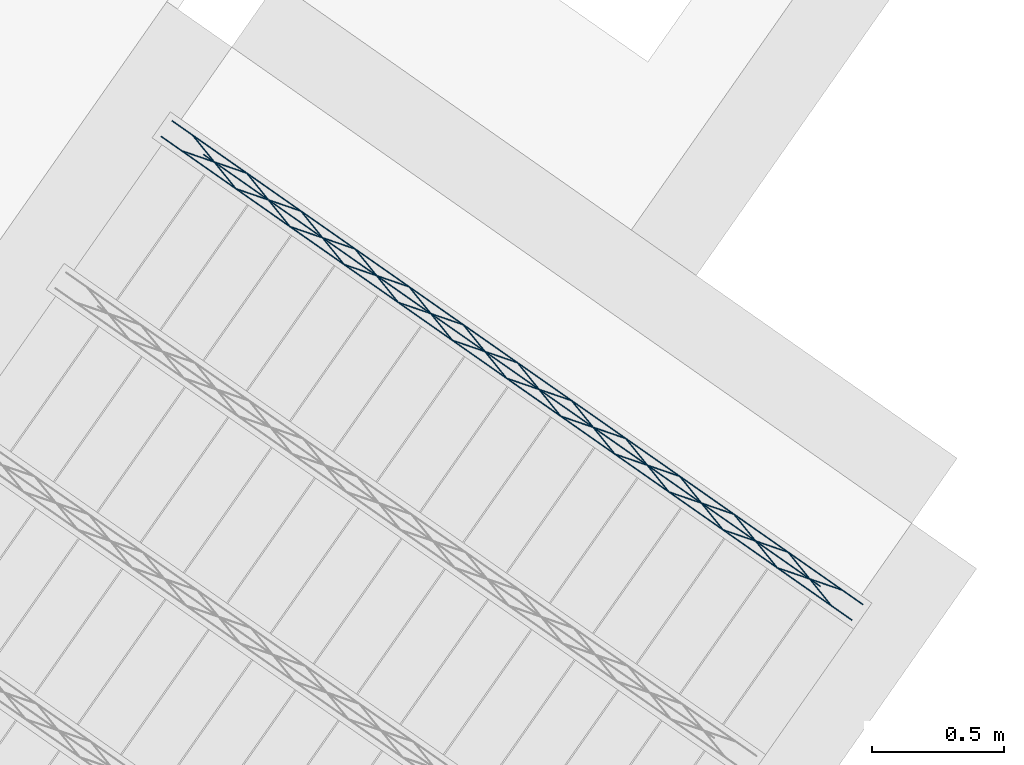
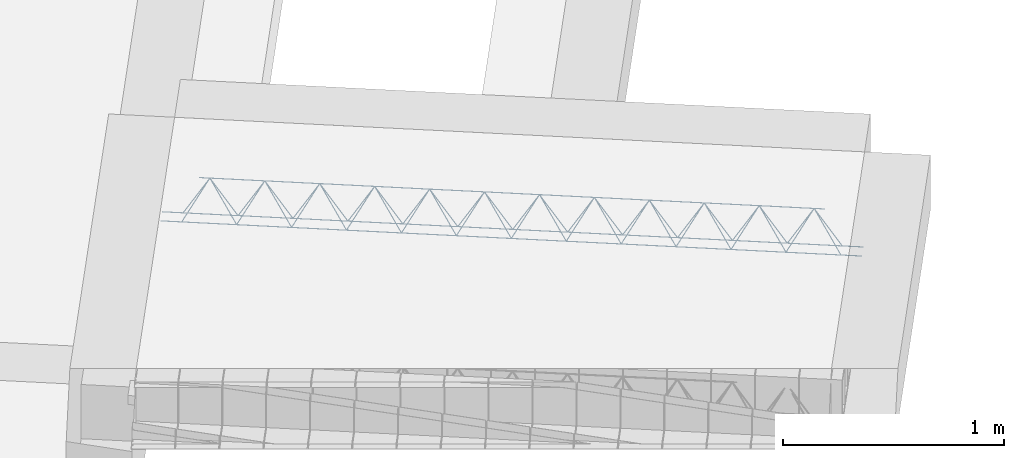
# One storey, part 17 of 46: 1 member.
"""IFC2X3 building model written with IfcOpenShell, lengths in metres."""

from ifc_helpers import new_model, entity, si_unit, converted_unit, derived_unit, direction, frame, origin, origin_2d_with_axis, place, context, subcontext, project, spatial, circle, extrude, type_object, element, save


model = new_model("IFC2X3")

# Units and contexts
model_context = context("Model", 3, precision=1e-05, world=origin(), true_north=direction((6.123031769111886e-17, 1.0)))
body_context = subcontext(model_context, "Body", "Model", "MODEL_VIEW")
ifc_project = project(units=[si_unit("LENGTHUNIT", "METRE"), si_unit("AREAUNIT", "SQUARE_METRE"), si_unit("VOLUMEUNIT", "CUBIC_METRE"), converted_unit("PLANEANGLEUNIT", "DEGREE", entity("IfcPlaneAngleMeasure", 0.017453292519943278), si_unit("PLANEANGLEUNIT", "RADIAN"), dimensions=[0, 0, 0, 0, 0, 0, 0]), si_unit("MASSUNIT", "GRAM", prefix="KILO"), derived_unit("MASSDENSITYUNIT", [(si_unit("MASSUNIT", "GRAM", prefix="KILO"), 1), (si_unit("LENGTHUNIT", "METRE"), -3)]), derived_unit("IONCONCENTRATIONUNIT", [(si_unit("MASSUNIT", "GRAM", prefix="KILO"), 1), (si_unit("LENGTHUNIT", "METRE"), -3)]), derived_unit("MOMENTOFINERTIAUNIT", [(si_unit("LENGTHUNIT", "METRE"), 4)]), si_unit("TIMEUNIT", "SECOND"), si_unit("FREQUENCYUNIT", "HERTZ"), si_unit("THERMODYNAMICTEMPERATUREUNIT", "DEGREE_CELSIUS"), derived_unit("THERMALTRANSMITTANCEUNIT", [(si_unit("MASSUNIT", "GRAM", prefix="KILO"), 1), (si_unit("THERMODYNAMICTEMPERATUREUNIT", "KELVIN"), -1), (si_unit("TIMEUNIT", "SECOND"), -3)]), derived_unit("THERMALCONDUCTANCEUNIT", [(si_unit("MASSUNIT", "GRAM", prefix="KILO"), 1), (si_unit("THERMODYNAMICTEMPERATUREUNIT", "KELVIN"), -1), (si_unit("TIMEUNIT", "SECOND"), -3), (si_unit("LENGTHUNIT", "METRE"), 1)]), derived_unit("VOLUMETRICFLOWRATEUNIT", [(si_unit("LENGTHUNIT", "METRE", prefix="DECI"), 3), (si_unit("TIMEUNIT", "SECOND"), -1)]), derived_unit("MASSFLOWRATEUNIT", [(si_unit("MASSUNIT", "GRAM", prefix="KILO"), 1), (si_unit("TIMEUNIT", "SECOND"), -1)]), derived_unit("ROTATIONALFREQUENCYUNIT", [(si_unit("TIMEUNIT", "SECOND"), -1)]), si_unit("ELECTRICCURRENTUNIT", "AMPERE"), si_unit("ELECTRICVOLTAGEUNIT", "VOLT"), si_unit("POWERUNIT", "WATT"), si_unit("FORCEUNIT", "NEWTON", prefix="KILO"), si_unit("ILLUMINANCEUNIT", "LUX"), si_unit("LUMINOUSFLUXUNIT", "LUMEN"), si_unit("LUMINOUSINTENSITYUNIT", "CANDELA"), si_unit("ENERGYUNIT", "JOULE"), derived_unit("USERDEFINED", [(si_unit("MASSUNIT", "GRAM", prefix="KILO"), -1), (si_unit("LENGTHUNIT", "METRE"), -2), (si_unit("TIMEUNIT", "SECOND"), 3), (si_unit("LUMINOUSFLUXUNIT", "LUMEN"), 1)]), derived_unit("USERDEFINED", [(si_unit("MASSUNIT", "GRAM", prefix="KILO"), 1), (si_unit("TIMEUNIT", "SECOND"), -3), (si_unit("LENGTHUNIT", "METRE"), 3), (si_unit("ELECTRICCURRENTUNIT", "AMPERE"), -2)]), derived_unit("SOUNDPOWERUNIT", [(si_unit("MASSUNIT", "GRAM", prefix="KILO"), 1), (si_unit("TIMEUNIT", "SECOND"), -3), (si_unit("LENGTHUNIT", "METRE"), 2)]), derived_unit("SOUNDPRESSUREUNIT", [(si_unit("MASSUNIT", "GRAM", prefix="KILO"), 1), (si_unit("LENGTHUNIT", "METRE"), -1), (si_unit("TIMEUNIT", "SECOND"), -2)]), derived_unit("LINEARVELOCITYUNIT", [(si_unit("LENGTHUNIT", "METRE"), 1), (si_unit("TIMEUNIT", "SECOND"), -1)]), si_unit("PRESSUREUNIT", "PASCAL"), derived_unit("USERDEFINED", [(si_unit("MASSUNIT", "GRAM", prefix="KILO"), 1), (si_unit("LENGTHUNIT", "METRE"), -2), (si_unit("TIMEUNIT", "SECOND"), -2)]), derived_unit("LINEARFORCEUNIT", [(si_unit("MASSUNIT", "GRAM", prefix="KILO"), 1), (si_unit("TIMEUNIT", "SECOND"), -2)]), derived_unit("PLANARFORCEUNIT", [(si_unit("MASSUNIT", "GRAM", prefix="KILO"), 1), (si_unit("LENGTHUNIT", "METRE"), -1), (si_unit("TIMEUNIT", "SECOND"), -2)]), derived_unit("SPECIFICHEATCAPACITYUNIT", [(si_unit("THERMODYNAMICTEMPERATUREUNIT", "KELVIN"), -1), (si_unit("LENGTHUNIT", "METRE"), 2), (si_unit("TIMEUNIT", "SECOND"), -2)]), derived_unit("HEATFLUXDENSITYUNIT", [(si_unit("MASSUNIT", "GRAM", prefix="KILO"), 1), (si_unit("TIMEUNIT", "SECOND"), -3)]), derived_unit("HEATINGVALUEUNIT", [(si_unit("LENGTHUNIT", "METRE"), 2), (si_unit("TIMEUNIT", "SECOND"), -2)]), derived_unit("VAPORPERMEABILITYUNIT", [(si_unit("LENGTHUNIT", "METRE"), -1), (si_unit("TIMEUNIT", "SECOND"), 1)]), derived_unit("DYNAMICVISCOSITYUNIT", [(si_unit("MASSUNIT", "GRAM", prefix="KILO"), 1), (si_unit("TIMEUNIT", "SECOND"), -1), (si_unit("LENGTHUNIT", "METRE"), -1)]), derived_unit("THERMALEXPANSIONCOEFFICIENTUNIT", [(si_unit("THERMODYNAMICTEMPERATUREUNIT", "KELVIN"), -1)]), derived_unit("MODULUSOFELASTICITYUNIT", [(si_unit("MASSUNIT", "GRAM", prefix="KILO"), 1), (si_unit("LENGTHUNIT", "METRE"), -1), (si_unit("TIMEUNIT", "SECOND"), -2)]), derived_unit("ISOTHERMALMOISTURECAPACITYUNIT", [(si_unit("MASSUNIT", "GRAM", prefix="KILO"), -1), (si_unit("LENGTHUNIT", "METRE"), 3)]), derived_unit("MOISTUREDIFFUSIVITYUNIT", [(si_unit("TIMEUNIT", "SECOND"), -1), (si_unit("LENGTHUNIT", "METRE"), 2)]), derived_unit("MASSPERLENGTHUNIT", [(si_unit("MASSUNIT", "GRAM", prefix="KILO"), 1), (si_unit("LENGTHUNIT", "METRE"), -1)]), derived_unit("THERMALRESISTANCEUNIT", [(si_unit("MASSUNIT", "GRAM", prefix="KILO"), -1), (si_unit("TIMEUNIT", "SECOND"), 3), (si_unit("THERMODYNAMICTEMPERATUREUNIT", "KELVIN"), 1)]), derived_unit("ACCELERATIONUNIT", [(si_unit("LENGTHUNIT", "METRE"), 1), (si_unit("TIMEUNIT", "SECOND"), -2)]), derived_unit("ANGULARVELOCITYUNIT", [(si_unit("TIMEUNIT", "SECOND"), -1), (si_unit("PLANEANGLEUNIT", "RADIAN"), 1)]), derived_unit("LINEARSTIFFNESSUNIT", [(si_unit("MASSUNIT", "GRAM", prefix="KILO"), 1), (si_unit("TIMEUNIT", "SECOND"), -2)]), derived_unit("WARPINGCONSTANTUNIT", [(si_unit("LENGTHUNIT", "METRE"), 6)]), derived_unit("LINEARMOMENTUNIT", [(si_unit("MASSUNIT", "GRAM", prefix="KILO"), 1), (si_unit("LENGTHUNIT", "METRE"), 1), (si_unit("TIMEUNIT", "SECOND"), -2)]), derived_unit("TORQUEUNIT", [(si_unit("MASSUNIT", "GRAM", prefix="KILO"), 1), (si_unit("LENGTHUNIT", "METRE"), 2), (si_unit("TIMEUNIT", "SECOND"), -2)])], contexts=[model_context])

# Site, building, storey
site_placement = place(None, origin())
site = spatial("IfcSite", under=ifc_project, at=site_placement, Name="Default", CompositionType="ELEMENT")
building_placement = place(site_placement, origin())
building = spatial("IfcBuilding", under=site, at=building_placement, CompositionType="ELEMENT")
storey_placement = place(building_placement, frame((0.0, 0.0, 99.52000000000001)))
storey = spatial("IfcBuildingStorey", under=building, at=storey_placement, Name="F1", CompositionType="ELEMENT", Elevation=99.52000000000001)

# Member
member_type = type_object("IfcMemberType", Name="Celosía (Vigueta 9 - Paño 4)", PredefinedType="NOTDEFINED")
member_placement = place(storey_placement, origin())
element("IfcMember", 1, at=member_placement, inside=storey, type_object=member_type, Name="Celosía (Vigueta 9 - Paño 4)", context=body_context, shape_type="SweptSolid", body=[
    extrude(circle(Radius=0.0025, at=origin_2d_with_axis()), frame((7.666458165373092, 0.7531964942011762, 0.22500000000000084), z_axis=(0.8191520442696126, -0.5735764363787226, 0.0), x_axis=(-0.5735764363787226, -0.8191520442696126, 0.0)), (0.0, 0.0, 1.0), 3.191999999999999),
    extrude(circle(Radius=0.0025, at=origin_2d_with_axis()), frame((7.82718191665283, 0.6846043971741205, 0.4500000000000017), z_axis=(0.8191520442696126, -0.5735764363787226, 0.0), x_axis=(-0.5735764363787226, -0.8191520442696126, 0.0)), (0.0, 0.0, 1.0), 2.849999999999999),
    extrude(circle(Radius=0.0025, at=origin_2d_with_axis()), frame((10.202552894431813, -1.0225961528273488, 0.22500000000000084), z_axis=(-0.3145304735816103, 0.389334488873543, 0.8657304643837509), x_axis=(-0.7778747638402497, -0.6284193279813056, 0.0)), (0.0, 0.0, 1.0), 0.2598961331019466),
    extrude(circle(Radius=0.0025, at=origin_2d_with_axis()), frame((9.997764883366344, -0.8792020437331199, 0.22499999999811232), z_axis=(0.47343050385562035, -0.1624017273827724, 0.8657304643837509), x_axis=(-0.3244721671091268, -0.9458952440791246, 0.0)), (0.0, 0.0, 1.0), 0.25989613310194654),
    extrude(circle(Radius=0.0025, at=origin_2d_with_axis()), frame((9.99776488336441, -0.8792020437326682, 0.22500000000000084), z_axis=(-0.3145304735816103, 0.389334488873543, 0.8657304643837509), x_axis=(-0.7778747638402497, -0.6284193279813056, 0.0)), (0.0, 0.0, 1.0), 0.2598961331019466),
    extrude(circle(Radius=0.0025, at=origin_2d_with_axis()), frame((9.792976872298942, -0.7358079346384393, 0.22499999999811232), z_axis=(0.47343050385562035, -0.1624017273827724, 0.8657304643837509), x_axis=(-0.3244721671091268, -0.9458952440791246, 0.0)), (0.0, 0.0, 1.0), 0.25989613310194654),
    extrude(circle(Radius=0.0025, at=origin_2d_with_axis()), frame((9.792976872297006, -0.7358079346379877, 0.22500000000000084), z_axis=(-0.3145304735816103, 0.389334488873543, 0.8657304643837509), x_axis=(-0.7778747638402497, -0.6284193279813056, 0.0)), (0.0, 0.0, 1.0), 0.2598961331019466),
    extrude(circle(Radius=0.0025, at=origin_2d_with_axis()), frame((9.588188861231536, -0.5924138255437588, 0.22499999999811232), z_axis=(0.47343050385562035, -0.1624017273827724, 0.8657304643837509), x_axis=(-0.3244721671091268, -0.9458952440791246, 0.0)), (0.0, 0.0, 1.0), 0.25989613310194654),
    extrude(circle(Radius=0.0025, at=origin_2d_with_axis()), frame((9.588188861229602, -0.592413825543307, 0.22500000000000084), z_axis=(-0.3145304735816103, 0.389334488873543, 0.8657304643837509), x_axis=(-0.7778747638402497, -0.6284193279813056, 0.0)), (0.0, 0.0, 1.0), 0.2598961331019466),
    extrude(circle(Radius=0.0025, at=origin_2d_with_axis()), frame((9.383400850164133, -0.4490197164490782, 0.22499999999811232), z_axis=(0.47343050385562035, -0.1624017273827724, 0.8657304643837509), x_axis=(-0.3244721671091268, -0.9458952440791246, 0.0)), (0.0, 0.0, 1.0), 0.25989613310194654),
    extrude(circle(Radius=0.0025, at=origin_2d_with_axis()), frame((9.3834008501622, -0.4490197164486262, 0.22500000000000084), z_axis=(-0.3145304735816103, 0.389334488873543, 0.8657304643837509), x_axis=(-0.7778747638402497, -0.6284193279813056, 0.0)), (0.0, 0.0, 1.0), 0.2598961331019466),
    extrude(circle(Radius=0.0025, at=origin_2d_with_axis()), frame((9.178612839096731, -0.3056256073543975, 0.22499999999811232), z_axis=(0.47343050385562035, -0.1624017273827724, 0.8657304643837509), x_axis=(-0.3244721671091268, -0.9458952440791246, 0.0)), (0.0, 0.0, 1.0), 0.25989613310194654),
    extrude(circle(Radius=0.0025, at=origin_2d_with_axis()), frame((9.178612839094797, -0.3056256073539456, 0.22500000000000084), z_axis=(-0.3145304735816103, 0.389334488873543, 0.8657304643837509), x_axis=(-0.7778747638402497, -0.6284193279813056, 0.0)), (0.0, 0.0, 1.0), 0.2598961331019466),
    extrude(circle(Radius=0.0025, at=origin_2d_with_axis()), frame((8.973824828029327, -0.16223149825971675, 0.22499999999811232), z_axis=(0.47343050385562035, -0.1624017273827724, 0.8657304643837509), x_axis=(-0.3244721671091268, -0.9458952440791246, 0.0)), (0.0, 0.0, 1.0), 0.25989613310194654),
    extrude(circle(Radius=0.0025, at=origin_2d_with_axis()), frame((8.973824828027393, -0.16223149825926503, 0.22500000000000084), z_axis=(-0.3145304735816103, 0.389334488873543, 0.8657304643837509), x_axis=(-0.7778747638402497, -0.6284193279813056, 0.0)), (0.0, 0.0, 1.0), 0.2598961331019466),
    extrude(circle(Radius=0.0025, at=origin_2d_with_axis()), frame((8.769036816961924, -0.018837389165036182, 0.22499999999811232), z_axis=(0.47343050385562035, -0.1624017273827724, 0.8657304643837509), x_axis=(-0.3244721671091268, -0.9458952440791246, 0.0)), (0.0, 0.0, 1.0), 0.25989613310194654),
    extrude(circle(Radius=0.0025, at=origin_2d_with_axis()), frame((8.76903681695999, -0.01883738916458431, 0.22500000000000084), z_axis=(-0.3145304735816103, 0.389334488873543, 0.8657304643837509), x_axis=(-0.7778747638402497, -0.6284193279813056, 0.0)), (0.0, 0.0, 1.0), 0.2598961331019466),
    extrude(circle(Radius=0.0025, at=origin_2d_with_axis()), frame((8.56424880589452, 0.12455671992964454, 0.22499999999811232), z_axis=(0.47343050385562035, -0.1624017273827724, 0.8657304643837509), x_axis=(-0.3244721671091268, -0.9458952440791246, 0.0)), (0.0, 0.0, 1.0), 0.25989613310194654),
    extrude(circle(Radius=0.0025, at=origin_2d_with_axis()), frame((8.564248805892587, 0.12455671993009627, 0.22500000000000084), z_axis=(-0.3145304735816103, 0.389334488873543, 0.8657304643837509), x_axis=(-0.7778747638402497, -0.6284193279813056, 0.0)), (0.0, 0.0, 1.0), 0.2598961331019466),
    extrude(circle(Radius=0.0025, at=origin_2d_with_axis()), frame((8.359460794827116, 0.2679508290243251, 0.22499999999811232), z_axis=(0.47343050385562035, -0.1624017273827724, 0.8657304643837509), x_axis=(-0.3244721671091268, -0.9458952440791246, 0.0)), (0.0, 0.0, 1.0), 0.25989613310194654),
    extrude(circle(Radius=0.0025, at=origin_2d_with_axis()), frame((8.359460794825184, 0.26795082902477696, 0.22500000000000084), z_axis=(-0.3145304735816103, 0.389334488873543, 0.8657304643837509), x_axis=(-0.7778747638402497, -0.6284193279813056, 0.0)), (0.0, 0.0, 1.0), 0.2598961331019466),
    extrude(circle(Radius=0.0025, at=origin_2d_with_axis()), frame((8.154672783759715, 0.4113449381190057, 0.22499999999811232), z_axis=(0.47343050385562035, -0.1624017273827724, 0.8657304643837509), x_axis=(-0.3244721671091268, -0.9458952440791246, 0.0)), (0.0, 0.0, 1.0), 0.25989613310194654),
    extrude(circle(Radius=0.0025, at=origin_2d_with_axis()), frame((8.15467278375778, 0.41134493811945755, 0.22500000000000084), z_axis=(-0.3145304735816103, 0.389334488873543, 0.8657304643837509), x_axis=(-0.7778747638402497, -0.6284193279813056, 0.0)), (0.0, 0.0, 1.0), 0.2598961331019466),
    extrude(circle(Radius=0.0025, at=origin_2d_with_axis()), frame((7.949884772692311, 0.5547390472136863, 0.22499999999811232), z_axis=(0.47343050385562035, -0.1624017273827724, 0.8657304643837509), x_axis=(-0.3244721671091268, -0.9458952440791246, 0.0)), (0.0, 0.0, 1.0), 0.25989613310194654),
    extrude(circle(Radius=0.0025, at=origin_2d_with_axis()), frame((7.949884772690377, 0.5547390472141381, 0.22500000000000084), z_axis=(-0.3145304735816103, 0.389334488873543, 0.8657304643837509), x_axis=(-0.7778747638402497, -0.6284193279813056, 0.0)), (0.0, 0.0, 1.0), 0.2598961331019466),
    extrude(circle(Radius=0.0025, at=origin_2d_with_axis()), frame((7.745096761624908, 0.6981331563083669, 0.22499999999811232), z_axis=(0.47343050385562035, -0.1624017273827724, 0.8657304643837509), x_axis=(-0.3244721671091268, -0.9458952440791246, 0.0)), (0.0, 0.0, 1.0), 0.25989613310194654),
    extrude(circle(Radius=0.0025, at=origin_2d_with_axis()), frame((7.707755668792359, 0.8121754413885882, 0.22500000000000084), z_axis=(0.8191520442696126, -0.5735764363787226, 0.0), x_axis=(-0.5735764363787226, -0.8191520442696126, 0.0)), (0.0, 0.0, 1.0), 3.191999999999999),
    extrude(circle(Radius=0.0025, at=origin_2d_with_axis()), frame((10.24385039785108, -0.9636172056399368, 0.22500000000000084), z_axis=(-0.47343050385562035, 0.1624017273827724, 0.8657304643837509), x_axis=(-0.3244721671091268, -0.9458952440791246, 0.0)), (0.0, 0.0, 1.0), 0.25989613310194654),
    extrude(circle(Radius=0.0025, at=origin_2d_with_axis()), frame((10.039062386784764, -0.8202230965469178, 0.22499999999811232), z_axis=(0.3145304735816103, -0.389334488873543, 0.8657304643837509), x_axis=(-0.7778747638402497, -0.6284193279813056, 0.0)), (0.0, 0.0, 1.0), 0.2598961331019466),
    extrude(circle(Radius=0.0025, at=origin_2d_with_axis()), frame((10.039062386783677, -0.8202230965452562, 0.22500000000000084), z_axis=(-0.47343050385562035, 0.1624017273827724, 0.8657304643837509), x_axis=(-0.3244721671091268, -0.9458952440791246, 0.0)), (0.0, 0.0, 1.0), 0.25989613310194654),
    extrude(circle(Radius=0.0025, at=origin_2d_with_axis()), frame((9.834274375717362, -0.6768289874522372, 0.22499999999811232), z_axis=(0.3145304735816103, -0.389334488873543, 0.8657304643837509), x_axis=(-0.7778747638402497, -0.6284193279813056, 0.0)), (0.0, 0.0, 1.0), 0.2598961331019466),
    extrude(circle(Radius=0.0025, at=origin_2d_with_axis()), frame((9.834274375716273, -0.6768289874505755, 0.22500000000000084), z_axis=(-0.47343050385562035, 0.1624017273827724, 0.8657304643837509), x_axis=(-0.3244721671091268, -0.9458952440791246, 0.0)), (0.0, 0.0, 1.0), 0.25989613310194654),
    extrude(circle(Radius=0.0025, at=origin_2d_with_axis()), frame((9.629486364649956, -0.5334348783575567, 0.22499999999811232), z_axis=(0.3145304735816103, -0.389334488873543, 0.8657304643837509), x_axis=(-0.7778747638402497, -0.6284193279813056, 0.0)), (0.0, 0.0, 1.0), 0.2598961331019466),
    extrude(circle(Radius=0.0025, at=origin_2d_with_axis()), frame((9.62948636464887, -0.5334348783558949, 0.22500000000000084), z_axis=(-0.47343050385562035, 0.1624017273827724, 0.8657304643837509), x_axis=(-0.3244721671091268, -0.9458952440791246, 0.0)), (0.0, 0.0, 1.0), 0.25989613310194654),
    extrude(circle(Radius=0.0025, at=origin_2d_with_axis()), frame((9.424698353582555, -0.390040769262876, 0.22499999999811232), z_axis=(0.3145304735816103, -0.389334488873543, 0.8657304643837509), x_axis=(-0.7778747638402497, -0.6284193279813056, 0.0)), (0.0, 0.0, 1.0), 0.2598961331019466),
    extrude(circle(Radius=0.0025, at=origin_2d_with_axis()), frame((9.424698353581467, -0.3900407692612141, 0.22500000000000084), z_axis=(-0.47343050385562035, 0.1624017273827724, 0.8657304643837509), x_axis=(-0.3244721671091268, -0.9458952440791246, 0.0)), (0.0, 0.0, 1.0), 0.25989613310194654),
    extrude(circle(Radius=0.0025, at=origin_2d_with_axis()), frame((9.219910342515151, -0.24664666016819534, 0.22499999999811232), z_axis=(0.3145304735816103, -0.389334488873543, 0.8657304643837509), x_axis=(-0.7778747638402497, -0.6284193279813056, 0.0)), (0.0, 0.0, 1.0), 0.2598961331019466),
    extrude(circle(Radius=0.0025, at=origin_2d_with_axis()), frame((9.219910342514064, -0.24664666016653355, 0.22500000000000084), z_axis=(-0.47343050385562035, 0.1624017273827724, 0.8657304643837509), x_axis=(-0.3244721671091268, -0.9458952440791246, 0.0)), (0.0, 0.0, 1.0), 0.25989613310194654),
    extrude(circle(Radius=0.0025, at=origin_2d_with_axis()), frame((9.015122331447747, -0.10325255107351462, 0.22499999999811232), z_axis=(0.3145304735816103, -0.389334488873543, 0.8657304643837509), x_axis=(-0.7778747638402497, -0.6284193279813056, 0.0)), (0.0, 0.0, 1.0), 0.2598961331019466),
    extrude(circle(Radius=0.0025, at=origin_2d_with_axis()), frame((9.015122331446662, -0.10325255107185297, 0.22500000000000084), z_axis=(-0.47343050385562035, 0.1624017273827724, 0.8657304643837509), x_axis=(-0.3244721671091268, -0.9458952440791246, 0.0)), (0.0, 0.0, 1.0), 0.25989613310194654),
    extrude(circle(Radius=0.0025, at=origin_2d_with_axis()), frame((8.810334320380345, 0.04014155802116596, 0.22499999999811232), z_axis=(0.3145304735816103, -0.389334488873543, 0.8657304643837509), x_axis=(-0.7778747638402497, -0.6284193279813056, 0.0)), (0.0, 0.0, 1.0), 0.2598961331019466),
    extrude(circle(Radius=0.0025, at=origin_2d_with_axis()), frame((8.810334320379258, 0.040141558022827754, 0.22500000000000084), z_axis=(-0.47343050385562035, 0.1624017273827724, 0.8657304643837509), x_axis=(-0.3244721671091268, -0.9458952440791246, 0.0)), (0.0, 0.0, 1.0), 0.25989613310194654),
    extrude(circle(Radius=0.0025, at=origin_2d_with_axis()), frame((8.605546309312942, 0.18353566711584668, 0.22499999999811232), z_axis=(0.3145304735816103, -0.389334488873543, 0.8657304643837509), x_axis=(-0.7778747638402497, -0.6284193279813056, 0.0)), (0.0, 0.0, 1.0), 0.2598961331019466),
    extrude(circle(Radius=0.0025, at=origin_2d_with_axis()), frame((8.605546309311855, 0.18353566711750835, 0.22500000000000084), z_axis=(-0.47343050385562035, 0.1624017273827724, 0.8657304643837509), x_axis=(-0.3244721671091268, -0.9458952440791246, 0.0)), (0.0, 0.0, 1.0), 0.25989613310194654),
    extrude(circle(Radius=0.0025, at=origin_2d_with_axis()), frame((8.400758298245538, 0.32692977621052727, 0.22499999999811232), z_axis=(0.3145304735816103, -0.389334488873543, 0.8657304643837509), x_axis=(-0.7778747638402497, -0.6284193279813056, 0.0)), (0.0, 0.0, 1.0), 0.2598961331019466),
    extrude(circle(Radius=0.0025, at=origin_2d_with_axis()), frame((8.400758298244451, 0.32692977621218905, 0.22500000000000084), z_axis=(-0.47343050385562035, 0.1624017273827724, 0.8657304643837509), x_axis=(-0.3244721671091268, -0.9458952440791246, 0.0)), (0.0, 0.0, 1.0), 0.25989613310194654),
    extrude(circle(Radius=0.0025, at=origin_2d_with_axis()), frame((8.195970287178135, 0.47032388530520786, 0.22499999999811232), z_axis=(0.3145304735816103, -0.389334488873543, 0.8657304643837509), x_axis=(-0.7778747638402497, -0.6284193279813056, 0.0)), (0.0, 0.0, 1.0), 0.2598961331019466),
    extrude(circle(Radius=0.0025, at=origin_2d_with_axis()), frame((8.195970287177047, 0.47032388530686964, 0.22500000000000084), z_axis=(-0.47343050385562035, 0.1624017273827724, 0.8657304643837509), x_axis=(-0.3244721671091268, -0.9458952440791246, 0.0)), (0.0, 0.0, 1.0), 0.25989613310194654),
    extrude(circle(Radius=0.0025, at=origin_2d_with_axis()), frame((7.991182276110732, 0.6137179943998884, 0.22499999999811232), z_axis=(0.3145304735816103, -0.389334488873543, 0.8657304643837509), x_axis=(-0.7778747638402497, -0.6284193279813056, 0.0)), (0.0, 0.0, 1.0), 0.2598961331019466),
    extrude(circle(Radius=0.0025, at=origin_2d_with_axis()), frame((7.991182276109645, 0.6137179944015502, 0.22500000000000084), z_axis=(-0.47343050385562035, 0.1624017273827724, 0.8657304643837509), x_axis=(-0.3244721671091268, -0.9458952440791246, 0.0)), (0.0, 0.0, 1.0), 0.25989613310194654),
    extrude(circle(Radius=0.0025, at=origin_2d_with_axis()), frame((7.786394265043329, 0.757112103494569, 0.22499999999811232), z_axis=(0.3145304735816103, -0.389334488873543, 0.8657304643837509), x_axis=(-0.7778747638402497, -0.6284193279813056, 0.0)), (0.0, 0.0, 1.0), 0.2598961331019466),
])

save(model, "model.ifc")
